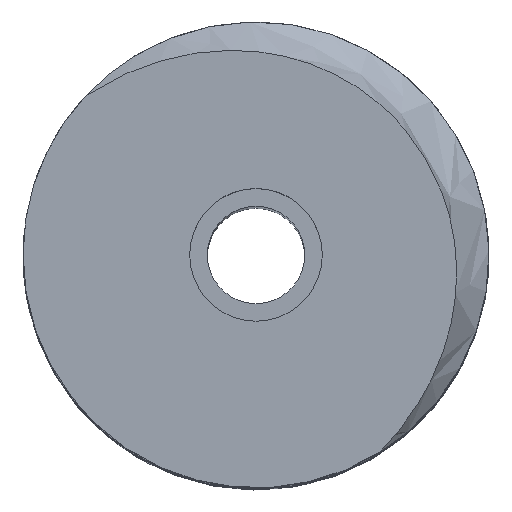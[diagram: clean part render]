
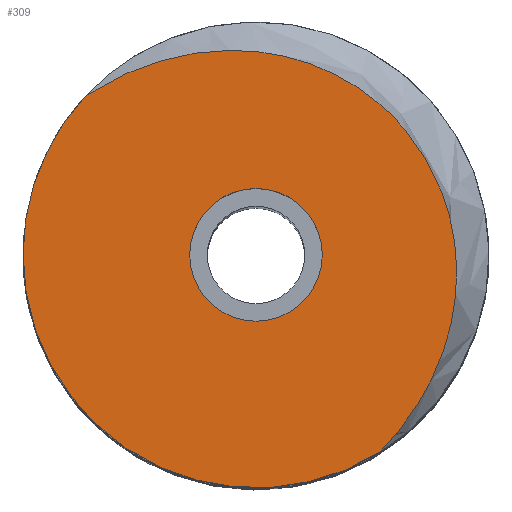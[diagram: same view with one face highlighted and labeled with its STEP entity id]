
A CAD part, top view. The second image highlights one B-rep face of the part: STEP entity #309.
In plain terms, the highlighted planar face has unit normal (0, 0, 1).
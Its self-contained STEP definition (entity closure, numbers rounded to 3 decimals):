
#20=FACE_BOUND('',#59,.T.);
#24=PLANE('',#358);
#39=FACE_OUTER_BOUND('',#58,.T.);
#58=EDGE_LOOP('',(#263,#264,#265,#266));
#59=EDGE_LOOP('',(#267,#268));
#65=CIRCLE('',#340,79.);
#72=CIRCLE('',#351,22.5);
#73=CIRCLE('',#352,22.5);
#77=CIRCLE('',#359,79.);
#95=B_SPLINE_CURVE_WITH_KNOTS('',3,(#6789,#6790,#6791,#6792,#6793,#6794,
#6795,#6796,#6797,#6798),.UNSPECIFIED.,.F.,.F.,(4,2,2,2,4),(-12.579,
-8.734,-5.762,-2.877,0.),.UNSPECIFIED.);
#97=B_SPLINE_CURVE_WITH_KNOTS('',3,(#6924,#6925,#6926,#6927,#6928,#6929,
#6930,#6931,#6932,#6933),.UNSPECIFIED.,.F.,.F.,(4,2,2,2,4),(-8.082,
-6.249,-4.455,-2.454,-0.087),
 .UNSPECIFIED.);
#133=VERTEX_POINT('',#4656);
#135=VERTEX_POINT('',#4659);
#142=VERTEX_POINT('',#5602);
#143=VERTEX_POINT('',#5603);
#149=VERTEX_POINT('',#6788);
#150=VERTEX_POINT('',#6923);
#170=EDGE_CURVE('',#133,#135,#65,.T.);
#181=EDGE_CURVE('',#142,#143,#72,.T.);
#182=EDGE_CURVE('',#143,#142,#73,.T.);
#191=EDGE_CURVE('',#135,#149,#95,.T.);
#193=EDGE_CURVE('',#149,#150,#97,.T.);
#194=EDGE_CURVE('',#150,#133,#77,.T.);
#263=ORIENTED_EDGE('',*,*,#193,.F.);
#264=ORIENTED_EDGE('',*,*,#191,.F.);
#265=ORIENTED_EDGE('',*,*,#170,.F.);
#266=ORIENTED_EDGE('',*,*,#194,.F.);
#267=ORIENTED_EDGE('',*,*,#181,.T.);
#268=ORIENTED_EDGE('',*,*,#182,.T.);
#309=ADVANCED_FACE('',(#39,#20),#24,.F.);
#340=AXIS2_PLACEMENT_3D('',#4660,#384,#385);
#351=AXIS2_PLACEMENT_3D('',#5604,#408,#409);
#352=AXIS2_PLACEMENT_3D('',#5605,#410,#411);
#358=AXIS2_PLACEMENT_3D('',#6922,#424,#425);
#359=AXIS2_PLACEMENT_3D('',#6934,#426,#427);
#384=DIRECTION('center_axis',(0.,0.,-1.));
#385=DIRECTION('ref_axis',(1.,0.,0.));
#408=DIRECTION('center_axis',(0.,0.,-1.));
#409=DIRECTION('ref_axis',(-1.,0.,0.));
#410=DIRECTION('center_axis',(0.,0.,-1.));
#411=DIRECTION('ref_axis',(-1.,0.,0.));
#424=DIRECTION('center_axis',(0.,0.,-1.));
#425=DIRECTION('ref_axis',(-1.,0.,0.));
#426=DIRECTION('center_axis',(0.,0.,-1.));
#427=DIRECTION('ref_axis',(1.,0.,0.));
#4656=CARTESIAN_POINT('',(-79.,0.,628.));
#4659=CARTESIAN_POINT('',(-57.625,54.041,628.));
#4660=CARTESIAN_POINT('Origin',(0.,0.,628.));
#5602=CARTESIAN_POINT('',(-22.5,0.,628.));
#5603=CARTESIAN_POINT('',(22.5,0.,628.));
#5604=CARTESIAN_POINT('Origin',(0.,0.,628.));
#5605=CARTESIAN_POINT('Origin',(0.,0.,628.));
#6788=CARTESIAN_POINT('',(50.68,42.279,628.));
#6789=CARTESIAN_POINT('Ctrl Pts',(-57.625,54.041,628.));
#6790=CARTESIAN_POINT('Ctrl Pts',(-50.785,58.417,628.));
#6791=CARTESIAN_POINT('Ctrl Pts',(-40.85,63.772,628.));
#6792=CARTESIAN_POINT('Ctrl Pts',(-18.641,69.239,628.));
#6793=CARTESIAN_POINT('Ctrl Pts',(-8.695,69.946,628.));
#6794=CARTESIAN_POINT('Ctrl Pts',(10.77,67.67,628.));
#6795=CARTESIAN_POINT('Ctrl Pts',(20.036,64.819,628.));
#6796=CARTESIAN_POINT('Ctrl Pts',(37.034,55.738,628.));
#6797=CARTESIAN_POINT('Ctrl Pts',(44.536,49.642,628.));
#6798=CARTESIAN_POINT('Ctrl Pts',(50.68,42.279,628.));
#6922=CARTESIAN_POINT('Origin',(0.,0.,628.));
#6923=CARTESIAN_POINT('',(42.022,-66.896,628.));
#6924=CARTESIAN_POINT('Ctrl Pts',(50.68,42.279,628.));
#6925=CARTESIAN_POINT('Ctrl Pts',(56.586,35.204,628.));
#6926=CARTESIAN_POINT('Ctrl Pts',(61.114,27.106,628.));
#6927=CARTESIAN_POINT('Ctrl Pts',(66.957,9.788,628.));
#6928=CARTESIAN_POINT('Ctrl Pts',(68.269,0.8,628.));
#6929=CARTESIAN_POINT('Ctrl Pts',(67.743,-18.306,628.));
#6930=CARTESIAN_POINT('Ctrl Pts',(65.52,-28.89,628.));
#6931=CARTESIAN_POINT('Ctrl Pts',(55.261,-51.88,628.));
#6932=CARTESIAN_POINT('Ctrl Pts',(47.681,-61.013,628.));
#6933=CARTESIAN_POINT('Ctrl Pts',(42.022,-66.896,628.));
#6934=CARTESIAN_POINT('Origin',(0.,0.,628.));
